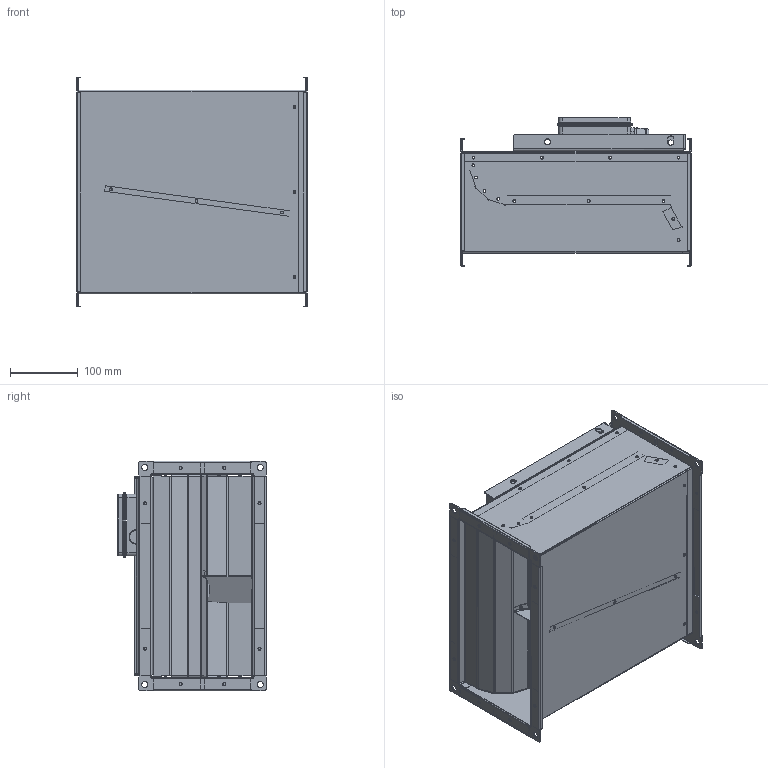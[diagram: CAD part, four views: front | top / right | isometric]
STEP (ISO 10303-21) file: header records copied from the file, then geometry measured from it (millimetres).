
FILE_DESCRIPTION (( 'STEP AP203' ), '1' );
FILE_NAME ('165198_00_KVR03015ECOK01_step.step', '2022-10-17T12:39:00', ( '' ), ( '' ), 'SwSTEP 2.0', 'SolidWorks 2021', '' );
FILE_SCHEMA (( 'CONFIG_CONTROL_DESIGN' ));
Length unit declared in the file: millimetre
Products named in the file (1): 165198_00_KVR03015ECOK01_step
Bounding box: 340.4 x 218.7 x 338.4 mm (x, y, z)
Surface area: 1196385.2 mm2 (no closed solid volume)
Topology: 0 solids, 44 shells, 966 faces, 2774 edges, 1842 vertices
Faces by surface type: cylinder 473, plane 427, cone 31, bspline 23, torus 12
Entity records: 34485 total; most frequent: CARTESIAN_POINT 8705, DIRECTION 5536, ORIENTED_EDGE 4772, EDGE_CURVE 2774, AXIS2_PLACEMENT_3D 1992, VERTEX_POINT 1842, LINE 1552, VECTOR 1552
